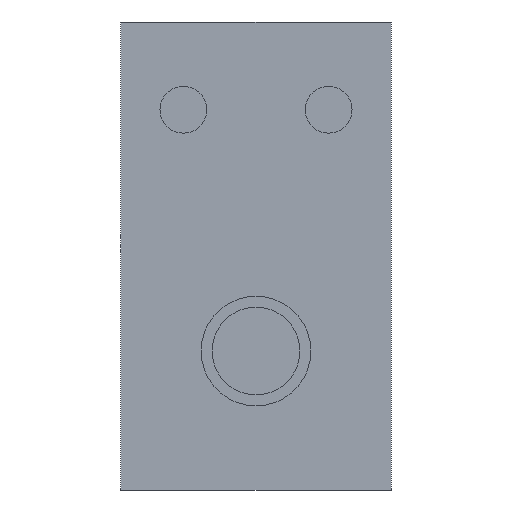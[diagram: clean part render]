
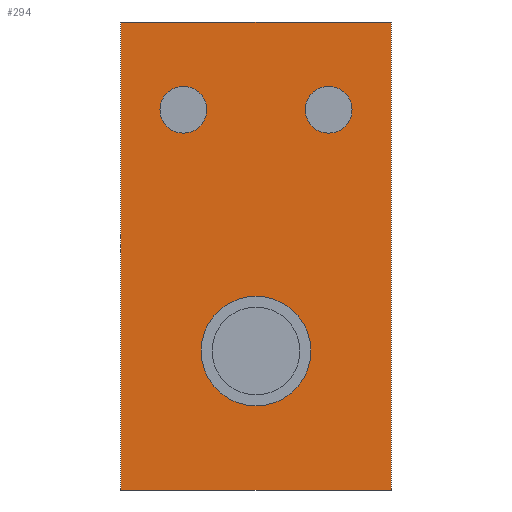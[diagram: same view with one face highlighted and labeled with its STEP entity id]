
A CAD part, front view. The second image highlights one B-rep face of the part: STEP entity #294.
In plain terms, the highlighted planar face has unit normal (0, -1, 0).
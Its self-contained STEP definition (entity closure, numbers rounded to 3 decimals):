
#1=CARTESIAN_POINT('',(0.,0.,-6.5));
#2=DIRECTION('',(0.,-1.,0.));
#3=DIRECTION('',(-1.,0.,0.));
#4=AXIS2_PLACEMENT_3D('',#1,#2,#3);
#6=CARTESIAN_POINT('',(0.,0.,-6.5));
#7=DIRECTION('',(0.,-1.,0.));
#8=DIRECTION('',(1.,0.,0.));
#9=AXIS2_PLACEMENT_3D('',#6,#7,#8);
#11=CARTESIAN_POINT('',(4.97,0.,10.));
#12=DIRECTION('',(0.,-1.,0.));
#13=DIRECTION('',(-1.,0.,0.));
#14=AXIS2_PLACEMENT_3D('',#11,#12,#13);
#16=CARTESIAN_POINT('',(4.97,0.,10.));
#17=DIRECTION('',(0.,-1.,0.));
#18=DIRECTION('',(1.,0.,0.));
#19=AXIS2_PLACEMENT_3D('',#16,#17,#18);
#21=CARTESIAN_POINT('',(-4.97,0.,10.));
#22=DIRECTION('',(0.,-1.,0.));
#23=DIRECTION('',(-1.,0.,0.));
#24=AXIS2_PLACEMENT_3D('',#21,#22,#23);
#26=CARTESIAN_POINT('',(-4.97,0.,10.));
#27=DIRECTION('',(0.,-1.,0.));
#28=DIRECTION('',(1.,0.,0.));
#29=AXIS2_PLACEMENT_3D('',#26,#27,#28);
#52=CARTESIAN_POINT('',(-9.25,0.,16.));
#54=DIRECTION('',(0.,0.,-1.));
#55=VECTOR('',#54,32.);
#56=CARTESIAN_POINT('',(-9.25,0.,16.));
#57=LINE('',#56,#55);
#75=CARTESIAN_POINT('',(-9.25,0.,-16.));
#77=DIRECTION('',(0.,0.,1.));
#78=VECTOR('',#77,32.);
#79=CARTESIAN_POINT('',(9.25,0.,-16.));
#80=LINE('',#79,#78);
#98=CARTESIAN_POINT('',(9.25,0.,16.));
#121=CARTESIAN_POINT('',(9.25,0.,-16.));
#127=DIRECTION('',(1.,0.,0.));
#128=VECTOR('',#127,18.5);
#129=CARTESIAN_POINT('',(-9.25,0.,16.));
#130=LINE('',#129,#128);
#135=DIRECTION('',(1.,0.,0.));
#136=VECTOR('',#135,18.5);
#137=CARTESIAN_POINT('',(-9.25,0.,-16.));
#138=LINE('',#137,#136);
#222=VERTEX_POINT('',#121);
#224=VERTEX_POINT('',#75);
#226=VERTEX_POINT('',#98);
#228=VERTEX_POINT('',#52);
#241=CARTESIAN_POINT('',(-3.75,0.,-6.5));
#242=CARTESIAN_POINT('',(3.75,0.,-6.5));
#243=VERTEX_POINT('',#241);
#244=VERTEX_POINT('',#242);
#245=CARTESIAN_POINT('',(3.37,0.,10.));
#246=CARTESIAN_POINT('',(6.57,0.,10.));
#247=VERTEX_POINT('',#245);
#248=VERTEX_POINT('',#246);
#249=CARTESIAN_POINT('',(-6.57,0.,10.));
#250=CARTESIAN_POINT('',(-3.37,0.,10.));
#251=VERTEX_POINT('',#249);
#252=VERTEX_POINT('',#250);
#261=CARTESIAN_POINT('',(0.,0.,0.));
#262=DIRECTION('',(0.,1.,0.));
#263=DIRECTION('',(1.,0.,0.));
#264=AXIS2_PLACEMENT_3D('',#261,#262,#263);
#265=PLANE('',#264);
#267=ORIENTED_EDGE('',*,*,#266,.F.);
#269=ORIENTED_EDGE('',*,*,#268,.T.);
#271=ORIENTED_EDGE('',*,*,#270,.F.);
#273=ORIENTED_EDGE('',*,*,#272,.F.);
#274=EDGE_LOOP('',(#267,#269,#271,#273));
#275=FACE_OUTER_BOUND('',#274,.F.);
#277=ORIENTED_EDGE('',*,*,#276,.T.);
#279=ORIENTED_EDGE('',*,*,#278,.T.);
#280=EDGE_LOOP('',(#277,#279));
#281=FACE_BOUND('',#280,.F.);
#283=ORIENTED_EDGE('',*,*,#282,.T.);
#285=ORIENTED_EDGE('',*,*,#284,.T.);
#286=EDGE_LOOP('',(#283,#285));
#287=FACE_BOUND('',#286,.F.);
#289=ORIENTED_EDGE('',*,*,#288,.T.);
#291=ORIENTED_EDGE('',*,*,#290,.T.);
#292=EDGE_LOOP('',(#289,#291));
#293=FACE_BOUND('',#292,.F.);
#294=ADVANCED_FACE('',(#275,#281,#287,#293),#265,.F.);
#5=CIRCLE('',#4,3.75);
#10=CIRCLE('',#9,3.75);
#15=CIRCLE('',#14,1.6);
#20=CIRCLE('',#19,1.6);
#25=CIRCLE('',#24,1.6);
#30=CIRCLE('',#29,1.6);
#266=EDGE_CURVE('',#228,#224,#57,.T.);
#268=EDGE_CURVE('',#228,#226,#130,.T.);
#270=EDGE_CURVE('',#222,#226,#80,.T.);
#272=EDGE_CURVE('',#224,#222,#138,.T.);
#276=EDGE_CURVE('',#243,#244,#5,.T.);
#278=EDGE_CURVE('',#244,#243,#10,.T.);
#282=EDGE_CURVE('',#247,#248,#15,.T.);
#284=EDGE_CURVE('',#248,#247,#20,.T.);
#288=EDGE_CURVE('',#251,#252,#25,.T.);
#290=EDGE_CURVE('',#252,#251,#30,.T.);
